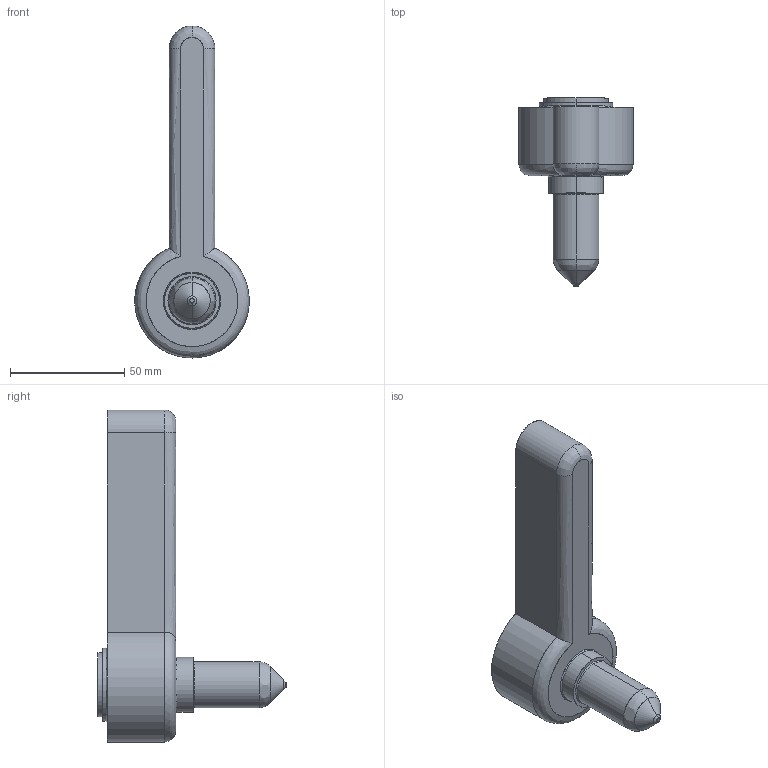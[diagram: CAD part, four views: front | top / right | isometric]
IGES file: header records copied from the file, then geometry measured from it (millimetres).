
Start section: SolidWorks IGES file using analytic representation for surfaces
Global section: file name: C:\Documents and Settings\ws-20\Desktop\TEM\Sede UGGS2520-S-0 C-48 L-80 Ød-2.0.IGS; native system: SolidWorks 2012; preprocessor: SolidWorks 2012; author: ws-20; date: 120516.093905; units: millimetre
Bounding box: 49.98 x 82.11 x 145 mm (x, y, z)
Surface area: 21871.3 mm2 (no closed solid volume)
Topology: 0 solids, 0 shells, 39 faces, 706 edges, 706 vertices
Faces by surface type: revolution 25, bspline 14
